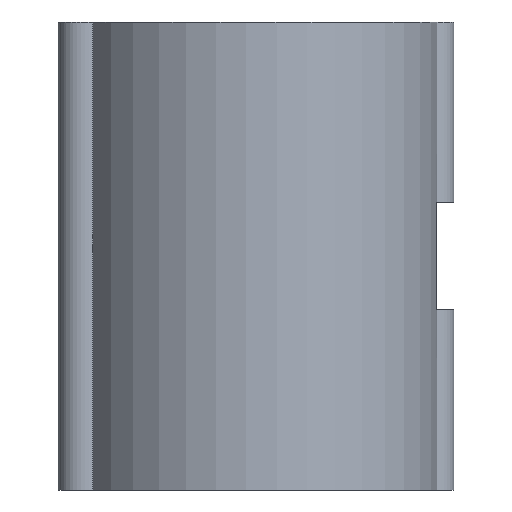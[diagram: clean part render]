
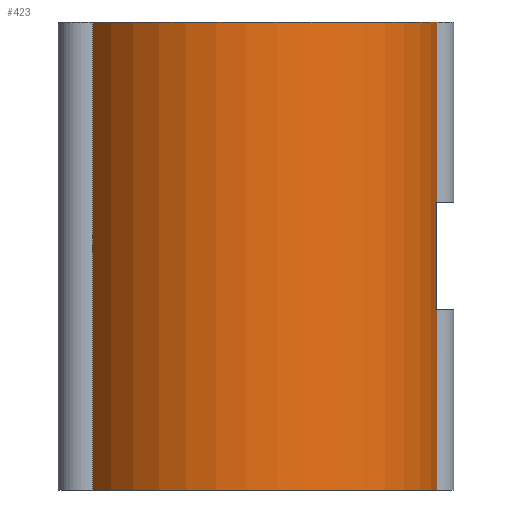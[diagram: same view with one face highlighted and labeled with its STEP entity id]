
A CAD part, left-side view. The second image highlights one B-rep face of the part: STEP entity #423.
In plain terms, the highlighted cylindrical face has radius 12 mm (diameter 24 mm), a partial arc.
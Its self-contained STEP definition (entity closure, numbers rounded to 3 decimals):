
#33=CIRCLE('',#467,12.);
#34=CIRCLE('',#468,12.);
#35=CIRCLE('',#469,12.);
#36=CIRCLE('',#470,12.);
#53=CYLINDRICAL_SURFACE('',#466,12.);
#66=FACE_OUTER_BOUND('',#89,.T.);
#89=EDGE_LOOP('',(#314,#315,#316,#317,#318,#319,#320,#321));
#123=LINE('',#680,#157);
#126=LINE('',#694,#160);
#127=LINE('',#698,#161);
#128=LINE('',#702,#162);
#157=VECTOR('',#541,10.);
#160=VECTOR('',#556,10.);
#161=VECTOR('',#559,10.);
#162=VECTOR('',#562,10.);
#195=VERTEX_POINT('',#676);
#197=VERTEX_POINT('',#679);
#201=VERTEX_POINT('',#691);
#202=VERTEX_POINT('',#693);
#203=VERTEX_POINT('',#695);
#204=VERTEX_POINT('',#697);
#205=VERTEX_POINT('',#699);
#206=VERTEX_POINT('',#701);
#242=EDGE_CURVE('',#197,#195,#123,.T.);
#248=EDGE_CURVE('',#195,#201,#33,.T.);
#249=EDGE_CURVE('',#201,#202,#126,.T.);
#250=EDGE_CURVE('',#202,#203,#34,.T.);
#251=EDGE_CURVE('',#203,#204,#127,.T.);
#252=EDGE_CURVE('',#204,#205,#35,.T.);
#253=EDGE_CURVE('',#205,#206,#128,.T.);
#254=EDGE_CURVE('',#197,#206,#36,.T.);
#314=ORIENTED_EDGE('',*,*,#242,.T.);
#315=ORIENTED_EDGE('',*,*,#248,.T.);
#316=ORIENTED_EDGE('',*,*,#249,.T.);
#317=ORIENTED_EDGE('',*,*,#250,.T.);
#318=ORIENTED_EDGE('',*,*,#251,.T.);
#319=ORIENTED_EDGE('',*,*,#252,.T.);
#320=ORIENTED_EDGE('',*,*,#253,.T.);
#321=ORIENTED_EDGE('',*,*,#254,.F.);
#423=ADVANCED_FACE('',(#66),#53,.T.);
#466=AXIS2_PLACEMENT_3D('',#690,#552,#553);
#467=AXIS2_PLACEMENT_3D('',#692,#554,#555);
#468=AXIS2_PLACEMENT_3D('',#696,#557,#558);
#469=AXIS2_PLACEMENT_3D('',#700,#560,#561);
#470=AXIS2_PLACEMENT_3D('',#703,#563,#564);
#541=DIRECTION('',(0.,0.,-1.));
#552=DIRECTION('center_axis',(0.,0.,1.));
#553=DIRECTION('ref_axis',(0.,1.,0.));
#554=DIRECTION('center_axis',(0.,0.,1.));
#555=DIRECTION('ref_axis',(0.,1.,0.));
#556=DIRECTION('',(0.,0.,1.));
#557=DIRECTION('center_axis',(0.,0.,-1.));
#558=DIRECTION('ref_axis',(0.,1.,0.));
#559=DIRECTION('',(0.,0.,1.));
#560=DIRECTION('center_axis',(0.,0.,1.));
#561=DIRECTION('ref_axis',(0.,1.,0.));
#562=DIRECTION('',(0.,0.,1.));
#563=DIRECTION('center_axis',(0.,0.,1.));
#564=DIRECTION('ref_axis',(0.,1.,0.));
#676=CARTESIAN_POINT('',(-6.392,10.156,0.));
#679=CARTESIAN_POINT('',(-6.392,10.156,30.));
#680=CARTESIAN_POINT('',(-6.392,10.156,30.));
#690=CARTESIAN_POINT('Origin',(0.,0.,0.));
#691=CARTESIAN_POINT('',(-1.442,-11.913,0.));
#692=CARTESIAN_POINT('Origin',(0.,0.,0.));
#693=CARTESIAN_POINT('',(-1.442,-11.913,11.567));
#694=CARTESIAN_POINT('',(-1.442,-11.913,30.));
#695=CARTESIAN_POINT('',(-1.762,-11.87,11.567));
#696=CARTESIAN_POINT('Origin',(0.,0.,11.567));
#697=CARTESIAN_POINT('',(-1.762,-11.87,18.433));
#698=CARTESIAN_POINT('',(-1.762,-11.87,15.));
#699=CARTESIAN_POINT('',(-1.442,-11.913,18.433));
#700=CARTESIAN_POINT('Origin',(0.,0.,18.433));
#701=CARTESIAN_POINT('',(-1.442,-11.913,30.));
#702=CARTESIAN_POINT('',(-1.442,-11.913,30.));
#703=CARTESIAN_POINT('Origin',(0.,0.,30.));
